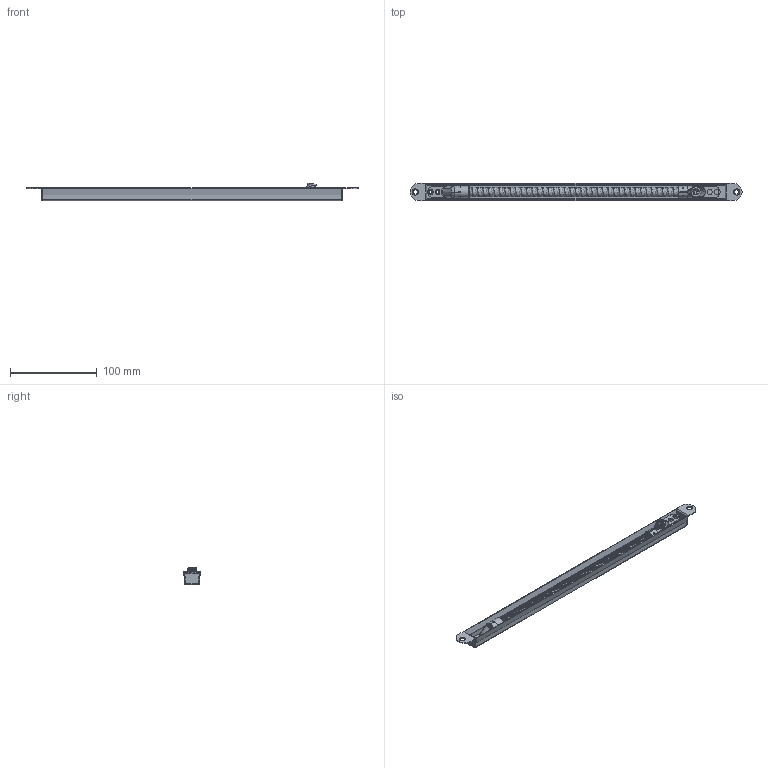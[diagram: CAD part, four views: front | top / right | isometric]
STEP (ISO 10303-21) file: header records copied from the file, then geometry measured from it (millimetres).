
FILE_DESCRIPTION((''),'2;1');
FILE_NAME('S:\Projekte\00 00 Datenarchiv\00.50- Kabelübergänge\M 11 88.stp','2011-08-19T07:32:20',('jsuarez'),(''),'Autodesk Inventor 2012','Autodesk Inventor 2012','');
FILE_SCHEMA(('AUTOMOTIVE_DESIGN { 1 0 10303 214 1 1 1 1 }'));
Length unit declared in the file: millimetre
Products named in the file (3): M 11 88; 9100009- Einbaukasten 382; M 11 87
Assembly tree (2 placements, depth 2):
  M 11 88
    9100009- Einbaukasten 382
    M 11 87
Bounding box: 382 x 20.05 x 20.62 mm (x, y, z)
Volume: 26971.4 mm3; surface area: 62961.5 mm2
Topology: 2 solids, 2 shells, 222 faces, 619 edges, 384 vertices
Faces by surface type: plane 90, bspline 62, cylinder 48, cone 12, revolution 4, sphere 4, torus 2
Full cylindrical faces by diameter (mm): 1.6 x2, 3.242 x2, 4.7 x2
Entity records: 26147 total; most frequent: CARTESIAN_POINT 20841, ORIENTED_EDGE 1156, DIRECTION 848, EDGE_CURVE 578, VERTEX_POINT 370, AXIS2_PLACEMENT_3D 315, EDGE_LOOP 282, FACE_OUTER_BOUND 222
